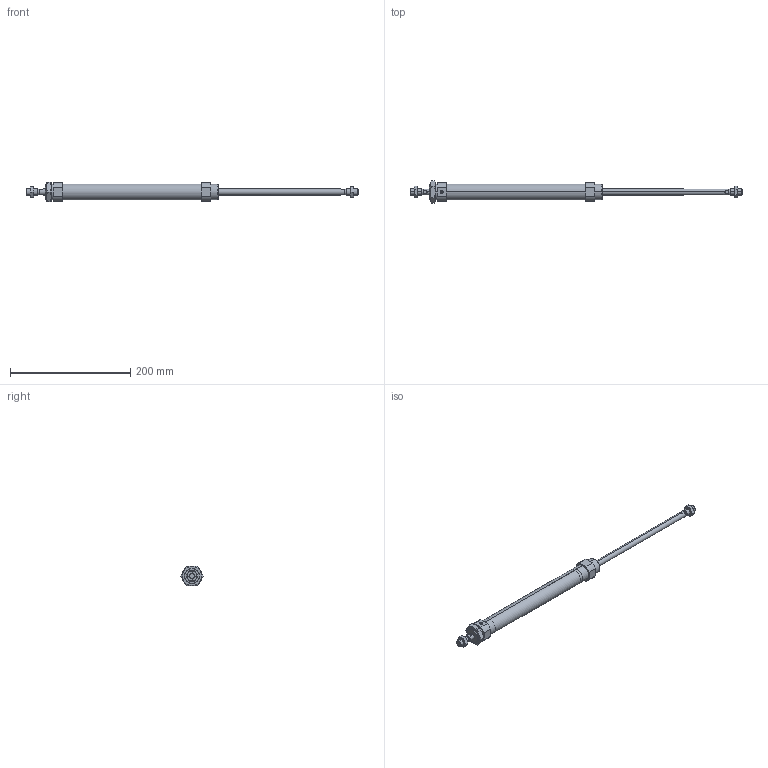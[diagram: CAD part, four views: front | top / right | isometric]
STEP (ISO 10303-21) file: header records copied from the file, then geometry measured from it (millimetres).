
FILE_DESCRIPTION (( 'STEP AP203' ), '1' );
FILE_NAME ('CSM2B25-200-P.STEP', '2020-07-20T16:44:28', ( '' ), ( '' ), 'SwSTEP 2.0', 'SolidWorks 2019', '' );
FILE_SCHEMA (( 'CONFIG_CONTROL_DESIGN' ));
Length unit declared in the file: millimetre
Products named in the file (1): CSM2B25-200-P
Bounding box: 552 x 36.95 x 32 mm (x, y, z)
Volume: 109405.7 mm3; surface area: 68920.7 mm2
Topology: 5 solids, 5 shells, 152 faces, 356 edges, 223 vertices
Faces by surface type: plane 62, cylinder 46, cone 44
Entity records: 5361 total; most frequent: CARTESIAN_POINT 1802, DIRECTION 738, ORIENTED_EDGE 708, EDGE_CURVE 354, AXIS2_PLACEMENT_3D 291, VERTEX_POINT 223, EDGE_LOOP 175, LINE 156
